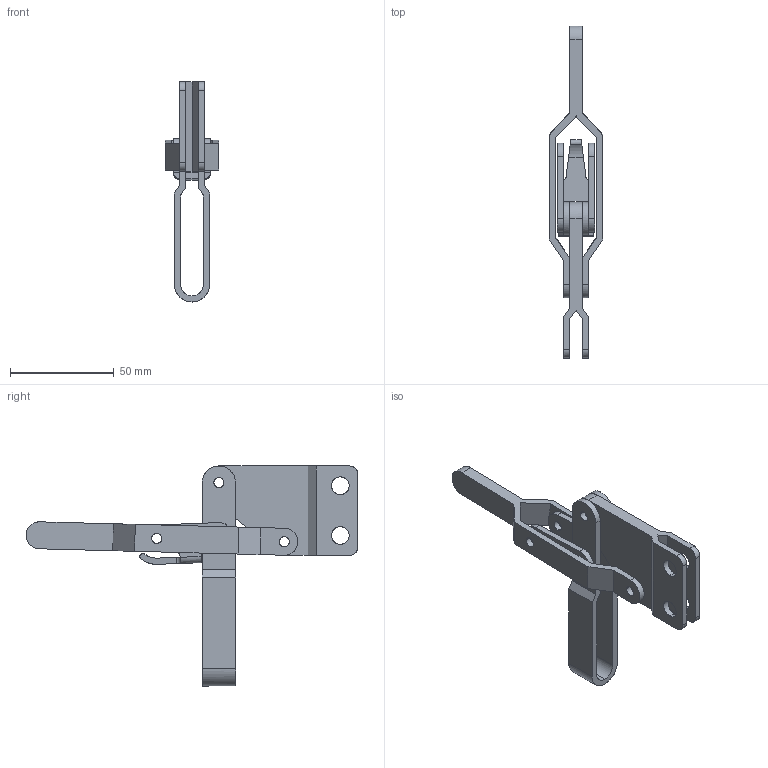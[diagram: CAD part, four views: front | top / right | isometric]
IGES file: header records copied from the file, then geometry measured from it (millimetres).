
Start section: Comment
Global section: file name: 12421.igs; native system:  By Spatial Corp.; preprocessor: XPlus GENERIC/IGES 3.0; author: Author; organization: Title; date: 20050406.142418; units: inch
Bounding box: 26 x 159.96 x 106.01 mm (x, y, z)
Surface area: 28232.1 mm2 (no closed solid volume)
Topology: 0 solids, 0 shells, 132 faces, 728 edges, 728 vertices
Faces by surface type: bspline 132
